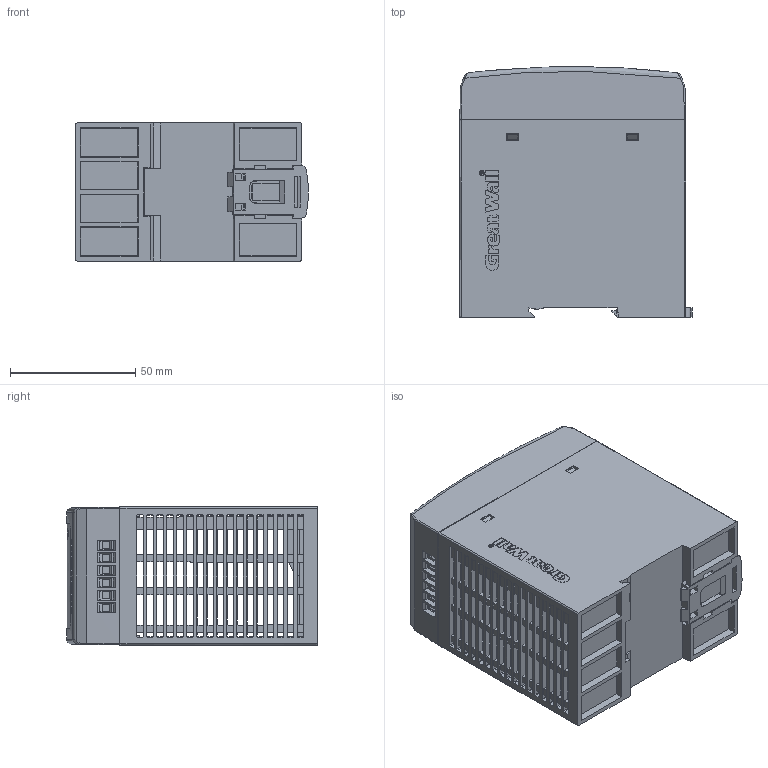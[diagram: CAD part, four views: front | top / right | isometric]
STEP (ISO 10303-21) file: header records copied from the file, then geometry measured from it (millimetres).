
FILE_DESCRIPTION(/* description */ (''),/* implementation_level */ '2;1');
FILE_NAME(/* name */ 'GW-DR100M',/* time_stamp */ '2026-05-29T06:43:52+08:00',/* author */ (''),/* organization */ (''),/* preprocessor_version */ 'ST-DEVELOPER v16.5',/* originating_system */ '',/* authorisation */ '');
FILE_SCHEMA (('AUTOMOTIVE_DESIGN'));
Products named in the file (7): Document; HS1; EU1_5-06-5_0-00; EU1_5-03-7_50-00-FOR_CUSTOMER(1); 图块 03; CASE-B; CASE-T
Assembly tree (6 placements, depth 3):
  Document
    HS1
    EU1_5-06-5_0-00
    EU1_5-03-7_50-00-FOR_CUSTOMER(1)
      图块 03
    CASE-B
    CASE-T
Bounding box: 92.64 x 100 x 55 mm (x, y, z)
Volume: 95937.5 mm3; surface area: 116942.4 mm2
Topology: 22 solids, 817 shells, 3235 faces, 11762 edges, 9118 vertices
Faces by surface type: plane 1890, bspline 1345
Entity records: 177807 total; most frequent: CARTESIAN_POINT 106595, ORIENTED_EDGE 19356, EDGE_CURVE 11762, B_SPLINE_CURVE_WITH_KNOTS 10108, VERTEX_POINT 9118, EDGE_LOOP 3781, ADVANCED_FACE 3235, FACE_OUTER_BOUND 3235
